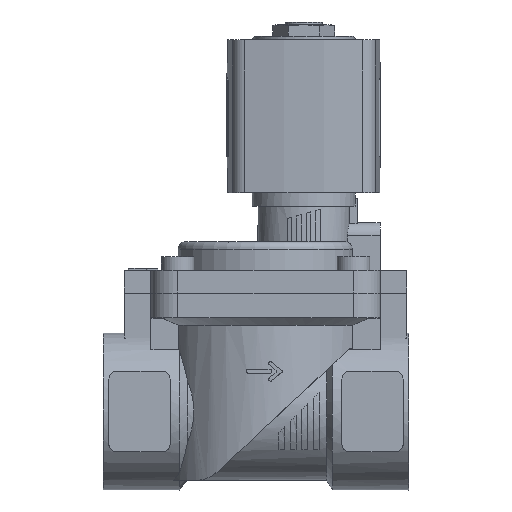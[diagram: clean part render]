
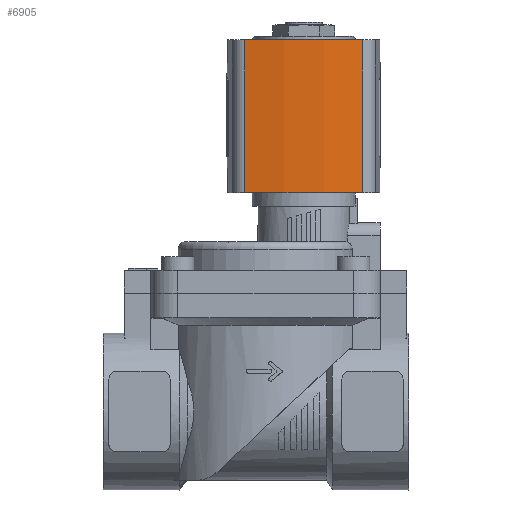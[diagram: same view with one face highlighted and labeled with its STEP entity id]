
A CAD part, top view. The second image highlights one B-rep face of the part: STEP entity #6905.
In plain terms, the highlighted cylindrical face has radius 80 mm (diameter 160 mm), a partial arc.
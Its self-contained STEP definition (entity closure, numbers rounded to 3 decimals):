
#248=CYLINDRICAL_SURFACE('',#7494,80.);
#657=LINE('',#10934,#1157);
#658=LINE('',#10938,#1158);
#1157=VECTOR('',#8974,1000.);
#1158=VECTOR('',#8979,1000.);
#2572=ORIENTED_EDGE('',*,*,#3598,.T.);
#2573=ORIENTED_EDGE('',*,*,#3599,.F.);
#2574=ORIENTED_EDGE('',*,*,#3546,.F.);
#2575=ORIENTED_EDGE('',*,*,#3597,.T.);
#3546=EDGE_CURVE('',#4166,#4167,#4445,.T.);
#3597=EDGE_CURVE('',#4166,#4210,#657,.T.);
#3598=EDGE_CURVE('',#4210,#4211,#4466,.T.);
#3599=EDGE_CURVE('',#4167,#4211,#658,.T.);
#4166=VERTEX_POINT('',#10834);
#4167=VERTEX_POINT('',#10835);
#4210=VERTEX_POINT('',#10933);
#4211=VERTEX_POINT('',#10937);
#4445=CIRCLE('',#7460,80.);
#4466=CIRCLE('',#7495,80.);
#4776=EDGE_LOOP('',(#2572,#2573,#2574,#2575));
#5161=FACE_BOUND('',#4776,.T.);
#6905=ADVANCED_FACE('',(#5161),#248,.T.);
#7460=AXIS2_PLACEMENT_3D('',#10833,#8884,#8885);
#7494=AXIS2_PLACEMENT_3D('',#10935,#8975,#8976);
#7495=AXIS2_PLACEMENT_3D('',#10936,#8977,#8978);
#8884=DIRECTION('',(0.,1.,0.));
#8885=DIRECTION('',(1.,0.,0.));
#8974=DIRECTION('',(0.,-1.,0.));
#8975=DIRECTION('',(0.,-1.,0.));
#8976=DIRECTION('',(0.,0.,-1.));
#8977=DIRECTION('',(0.,1.,0.));
#8978=DIRECTION('',(1.,0.,0.));
#8979=DIRECTION('',(0.,-1.,0.));
#10833=CARTESIAN_POINT('',(-56.5,14.,0.));
#10834=CARTESIAN_POINT('',(21.99,14.,15.472));
#10835=CARTESIAN_POINT('',(21.99,14.,-15.472));
#10933=CARTESIAN_POINT('',(21.99,-26.,15.472));
#10934=CARTESIAN_POINT('',(21.99,14.,15.472));
#10935=CARTESIAN_POINT('',(-56.5,14.,0.));
#10936=CARTESIAN_POINT('',(-56.5,-26.,0.));
#10937=CARTESIAN_POINT('',(21.99,-26.,-15.472));
#10938=CARTESIAN_POINT('',(21.99,14.,-15.472));
